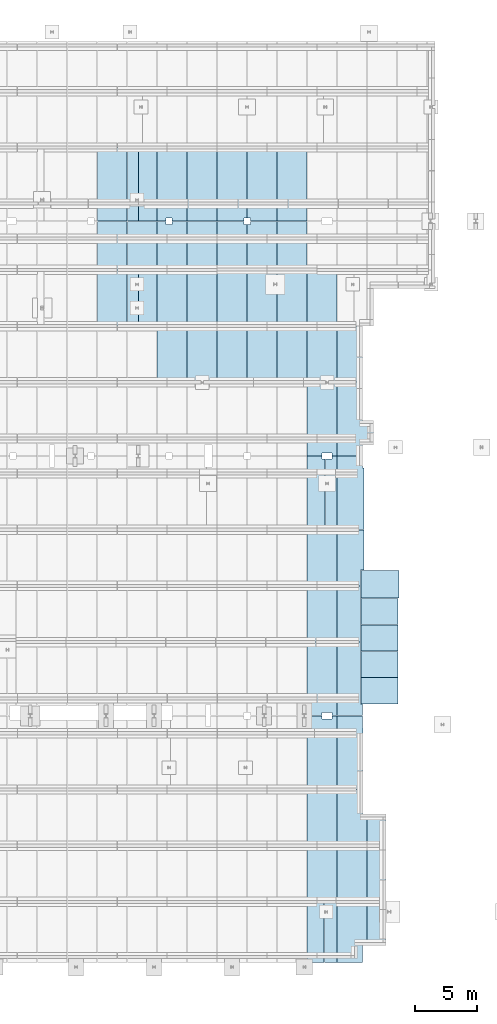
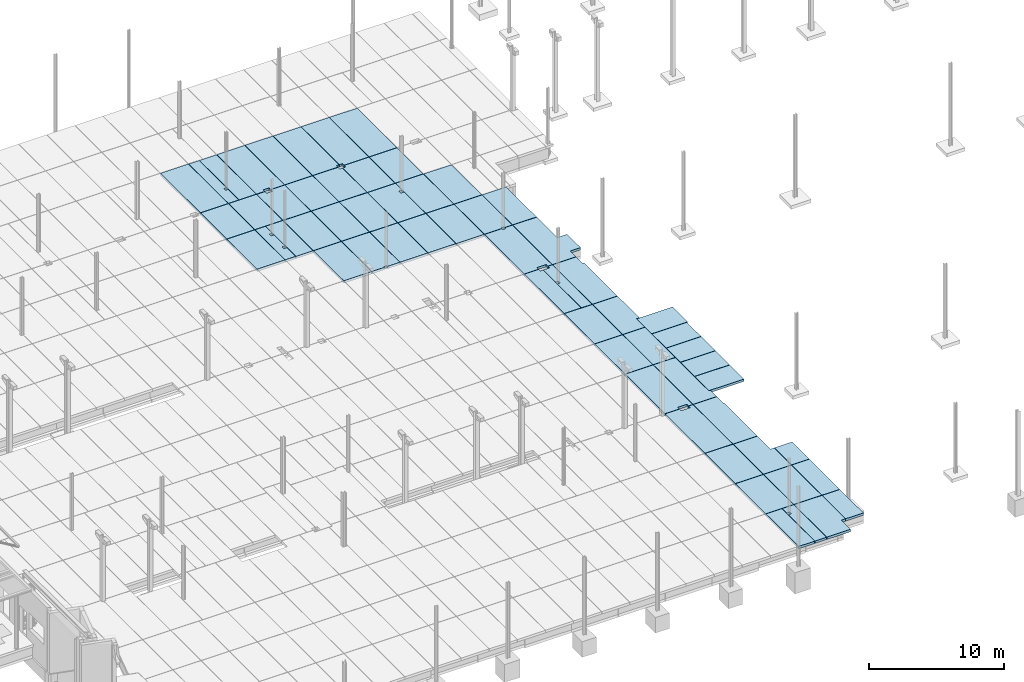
# One storey, part 51 of 59: 59 slabs.
"""IFC2X3 building model written with IfcOpenShell, lengths in metres."""

from ifc_helpers import new_model, entity, si_unit, converted_unit, derived_unit, frame, frame_2d, origin, origin_with_axes, place, context, subcontext, project, spatial, polyline, rectangle, outline, extrude, material, element, save


model = new_model("IFC2X3")

# Units and contexts
model_context = context("Model", 3, precision=1e-05, world=origin())
body_context = subcontext(model_context, "Body", "Model", "MODEL_VIEW")
ifc_project = project(units=[si_unit("LENGTHUNIT", "METRE"), si_unit("AREAUNIT", "SQUARE_METRE"), si_unit("VOLUMEUNIT", "CUBIC_METRE"), si_unit("MASSUNIT", "GRAM", prefix="KILO"), converted_unit("PLANEANGLEUNIT", "DEGREE", entity("IfcPlaneAngleMeasure", 0.0174532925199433), si_unit("PLANEANGLEUNIT", "RADIAN"), dimensions=[0, 0, 0, 0, 0, 0, 0]), derived_unit("THERMALTRANSMITTANCEUNIT", [(si_unit("POWERUNIT", "WATT"), 1), (si_unit("THERMODYNAMICTEMPERATUREUNIT", "KELVIN"), -1), (si_unit("LENGTHUNIT", "METRE"), -2)]), derived_unit("VOLUMETRICFLOWRATEUNIT", [(si_unit("LENGTHUNIT", "METRE"), 3), (converted_unit("TIMEUNIT", "hour", entity("IfcTimeMeasure", 3600.0), si_unit("TIMEUNIT", "SECOND"), dimensions=[0, 0, 1, 0, 0, 0, 0]), -1), (si_unit("LENGTHUNIT", "METRE"), -1)])], contexts=[model_context])

# Site, building, storey
site_placement = place(None, origin())
site = spatial("IfcSite", under=ifc_project, at=site_placement, Name="TWP_Speiseverteilzentrum SBW VZ II", CompositionType="ELEMENT")
building_placement = place(site_placement, origin())
building = spatial("IfcBuilding", under=site, at=building_placement, Name="Speiseverteilzentrum SBW VZ II", CompositionType="ELEMENT")
storey_placement = place(building_placement, frame((0.0, 0.0, 1.7307)))
storey = spatial("IfcBuildingStorey", under=building, at=storey_placement, Name="EG_Produktion_FFB", CompositionType="ELEMENT", Elevation=1.7307)

# Slabs
ifc_material_1 = material(Name="Stahlbetonfertigteil")
slab_1_placement = place(storey_placement, frame((50.3999999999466, 62.0100000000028, -0.47)))
element("IfcSlab", 1, at=slab_1_placement, inside=storey, material=ifc_material_1, Name="Stahlbetonfertigteilplatte", PredefinedType="BASESLAB", context=body_context, shape_type="SweptSolid", body=[
    extrude(outline(polyline([(0.650000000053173, 1.56790584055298), (0.890000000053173, 1.56790584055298), (0.890000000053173, 3.20499999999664), (0.650000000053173, 3.20499999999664), (0.650000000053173, 3.45499999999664), (0.890000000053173, 3.45499999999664), (0.890000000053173, 4.47999999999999), (0.0, 4.47999999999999), (0.0, 0.0), (0.890000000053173, 0.0), (0.890000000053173, 1.31790584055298), (0.650000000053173, 1.31790584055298), (0.650000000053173, 1.56790584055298)])), origin_with_axes(), (0.0, 0.0, 1.0), 0.22),
])
ifc_material_2 = material(Name="Stahlbetonfertigteil")
slab_2_placement = place(storey_placement, frame((51.3099999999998, 62.0100000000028, -0.47)))
element("IfcSlab", 2, at=slab_2_placement, inside=storey, material=ifc_material_2, Name="Stahlbetonfertigteilplatte", PredefinedType="BASESLAB", context=body_context, shape_type="SweptSolid", body=[
    extrude(rectangle(XDim=4.47999999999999, YDim=1.46999999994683, at=frame_2d((0.734999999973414, -2.23999999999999), x_axis=(0.0, -1.0))), frame((0.0, 4.47999999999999, 0.0), z_axis=(0.0, 0.0, 1.0), x_axis=(1.0, 0.0, 0.0)), (0.0, 0.0, 1.0), 0.22),
])
ifc_material_3 = material(Name="Stahlbetonfertigteil")
slab_3_placement = place(storey_placement, frame((64.7999999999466, 57.5100000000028, -0.47)))
element("IfcSlab", 3, at=slab_3_placement, inside=storey, material=ifc_material_3, Name="Stahlbetonfertigteilplatte", PredefinedType="BASESLAB", context=body_context, shape_type="SweptSolid", body=[
    extrude(outline(polyline([(0.0, 0.0), (1.47000000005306, 0.0), (1.47000000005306, 0.0999999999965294), (1.73000000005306, 0.0999999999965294), (1.73000000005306, 0.0), (2.38000000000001, 0.0), (2.38000000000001, 4.47999999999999), (0.0, 4.47999999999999), (0.0, 0.0)])), origin_with_axes(), (0.0, 0.0, 1.0), 0.22),
])
ifc_material_4 = material(Name="Stahlbetonfertigteil")
slab_4_placement = place(storey_placement, frame((67.1999999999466, 57.5100000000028, -0.47)))
element("IfcSlab", 4, at=slab_4_placement, inside=storey, material=ifc_material_4, Name="Stahlbetonfertigteilplatte", PredefinedType="BASESLAB", context=body_context, shape_type="SweptSolid", body=[
    extrude(rectangle(XDim=4.47999999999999, YDim=2.05000000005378, at=frame_2d((1.02500000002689, -2.23999999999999), x_axis=(0.0, -1.0))), frame((0.0, 4.47999999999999, 0.0), z_axis=(0.0, 0.0, 1.0), x_axis=(1.0, 0.0, 0.0)), (0.0, 0.0, 1.0), 0.22),
])
ifc_material_5 = material(Name="Stahlbetonfertigteil")
slab_5_placement = place(storey_placement, frame((47.9999999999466, 62.0100000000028, -0.47)))
element("IfcSlab", 5, at=slab_5_placement, inside=storey, material=ifc_material_5, Name="Stahlbetonfertigteilplatte", PredefinedType="BASESLAB", context=body_context, shape_type="SweptSolid", body=[
    extrude(rectangle(XDim=4.47999999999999, YDim=2.38, at=frame_2d((1.19, -2.23999999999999), x_axis=(0.0, -1.0))), frame((0.0, 4.47999999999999, 0.0), z_axis=(0.0, 0.0, 1.0), x_axis=(1.0, 0.0, 0.0)), (0.0, 0.0, 1.0), 0.22),
])
ifc_material_6 = material(Name="Stahlbetonfertigteil")
slab_6_placement = place(storey_placement, frame((52.7999999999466, 62.0100000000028, -0.47)))
element("IfcSlab", 6, at=slab_6_placement, inside=storey, material=ifc_material_6, Name="Stahlbetonfertigteilplatte", PredefinedType="BASESLAB", context=body_context, shape_type="SweptSolid", body=[
    extrude(rectangle(XDim=4.47999999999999, YDim=2.38, at=frame_2d((1.19, -2.23999999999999), x_axis=(0.0, -1.0))), frame((0.0, 4.47999999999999, 0.0), z_axis=(0.0, 0.0, 1.0), x_axis=(1.0, 0.0, 0.0)), (0.0, 0.0, 1.0), 0.22),
])
ifc_material_7 = material(Name="Stahlbetonfertigteil")
slab_7_placement = place(storey_placement, frame((52.7999999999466, 57.5100000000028, -0.47)))
element("IfcSlab", 7, at=slab_7_placement, inside=storey, material=ifc_material_7, Name="Stahlbetonfertigteilplatte", PredefinedType="BASESLAB", context=body_context, shape_type="SweptSolid", body=[
    extrude(rectangle(XDim=4.47999999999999, YDim=2.38, at=frame_2d((1.19, -2.23999999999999), x_axis=(0.0, -1.0))), frame((0.0, 4.47999999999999, 0.0), z_axis=(0.0, 0.0, 1.0), x_axis=(1.0, 0.0, 0.0)), (0.0, 0.0, 1.0), 0.22),
])
ifc_material_8 = material(Name="Stahlbetonfertigteil")
slab_8_placement = place(storey_placement, frame((55.1999999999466, 62.0100000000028, -0.47)))
element("IfcSlab", 8, at=slab_8_placement, inside=storey, material=ifc_material_8, Name="Stahlbetonfertigteilplatte", PredefinedType="BASESLAB", context=body_context, shape_type="SweptSolid", body=[
    extrude(rectangle(XDim=4.47999999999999, YDim=2.38, at=frame_2d((1.19, -2.23999999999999), x_axis=(0.0, -1.0))), frame((0.0, 4.47999999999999, 0.0), z_axis=(0.0, 0.0, 1.0), x_axis=(1.0, 0.0, 0.0)), (0.0, 0.0, 1.0), 0.22),
])
ifc_material_9 = material(Name="Stahlbetonfertigteil")
slab_9_placement = place(storey_placement, frame((57.5999999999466, 62.0100000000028, -0.47)))
element("IfcSlab", 9, at=slab_9_placement, inside=storey, material=ifc_material_9, Name="Stahlbetonfertigteilplatte", PredefinedType="BASESLAB", context=body_context, shape_type="SweptSolid", body=[
    extrude(rectangle(XDim=4.47999999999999, YDim=2.38, at=frame_2d((1.19, -2.23999999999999), x_axis=(0.0, -1.0))), frame((0.0, 4.47999999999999, 0.0), z_axis=(0.0, 0.0, 1.0), x_axis=(1.0, 0.0, 0.0)), (0.0, 0.0, 1.0), 0.22),
])
ifc_material_10 = material(Name="Stahlbetonfertigteil")
slab_10_placement = place(storey_placement, frame((57.5999999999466, 57.5100000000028, -0.47)))
element("IfcSlab", 10, at=slab_10_placement, inside=storey, material=ifc_material_10, Name="Stahlbetonfertigteilplatte", PredefinedType="BASESLAB", context=body_context, shape_type="SweptSolid", body=[
    extrude(rectangle(XDim=4.47999999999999, YDim=2.38, at=frame_2d((1.19, -2.23999999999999), x_axis=(0.0, -1.0))), frame((0.0, 4.47999999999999, 0.0), z_axis=(0.0, 0.0, 1.0), x_axis=(1.0, 0.0, 0.0)), (0.0, 0.0, 1.0), 0.22),
])
ifc_material_11 = material(Name="Stahlbetonfertigteil")
slab_11_placement = place(storey_placement, frame((62.3999999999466, 62.0100000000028, -0.47)))
element("IfcSlab", 11, at=slab_11_placement, inside=storey, material=ifc_material_11, Name="Stahlbetonfertigteilplatte", PredefinedType="BASESLAB", context=body_context, shape_type="SweptSolid", body=[
    extrude(rectangle(XDim=4.47999999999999, YDim=2.38, at=frame_2d((1.19, -2.23999999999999), x_axis=(0.0, -1.0))), frame((0.0, 4.47999999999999, 0.0), z_axis=(0.0, 0.0, 1.0), x_axis=(1.0, 0.0, 0.0)), (0.0, 0.0, 1.0), 0.22),
])
ifc_material_12 = material(Name="Stahlbetonfertigteil")
slab_12_placement = place(storey_placement, frame((59.9999999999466, 57.5100000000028, -0.47)))
element("IfcSlab", 12, at=slab_12_placement, inside=storey, material=ifc_material_12, Name="Stahlbetonfertigteilplatte", PredefinedType="BASESLAB", context=body_context, shape_type="SweptSolid", body=[
    extrude(rectangle(XDim=4.47999999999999, YDim=2.38, at=frame_2d((1.19, -2.23999999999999), x_axis=(0.0, -1.0))), frame((0.0, 4.47999999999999, 0.0), z_axis=(0.0, 0.0, 1.0), x_axis=(1.0, 0.0, 0.0)), (0.0, 0.0, 1.0), 0.22),
])
ifc_material_13 = material(Name="Stahlbetonfertigteil")
slab_13_placement = place(storey_placement, frame((62.3999999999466, 57.5100000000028, -0.47)))
element("IfcSlab", 13, at=slab_13_placement, inside=storey, material=ifc_material_13, Name="Stahlbetonfertigteilplatte", PredefinedType="BASESLAB", context=body_context, shape_type="SweptSolid", body=[
    extrude(rectangle(XDim=4.47999999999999, YDim=2.38, at=frame_2d((1.19, -2.23999999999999), x_axis=(0.0, -1.0))), frame((0.0, 4.47999999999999, 0.0), z_axis=(0.0, 0.0, 1.0), x_axis=(1.0, 0.0, 0.0)), (0.0, 0.0, 1.0), 0.22),
])
ifc_material_14 = material(Name="Stahlbetonfertigteil")
slab_14_placement = place(storey_placement, frame((64.7999999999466, 62.0100000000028, -0.47)))
element("IfcSlab", 14, at=slab_14_placement, inside=storey, material=ifc_material_14, Name="Stahlbetonfertigteilplatte", PredefinedType="BASESLAB", context=body_context, shape_type="SweptSolid", body=[
    extrude(rectangle(XDim=4.47999999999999, YDim=2.38000000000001, at=frame_2d((1.19000000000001, -2.23999999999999), x_axis=(0.0, -1.0))), frame((0.0, 4.47999999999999, 0.0), z_axis=(0.0, 0.0, 1.0), x_axis=(1.0, 0.0, 0.0)), (0.0, 0.0, 1.0), 0.22),
])
ifc_material_15 = material(Name="Stahlbetonfertigteil")
slab_15_placement = place(storey_placement, frame((55.1999999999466, 57.5100000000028, -0.47)))
element("IfcSlab", 15, at=slab_15_placement, inside=storey, material=ifc_material_15, Name="Stahlbetonfertigteilplatte", PredefinedType="BASESLAB", context=body_context, shape_type="SweptSolid", body=[
    extrude(outline(polyline([(0.0, 0.0), (1.07445952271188, 0.0), (1.07445952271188, 0.0999999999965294), (1.33445952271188, 0.0999999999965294), (1.33445952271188, 0.0), (2.38, 0.0), (2.38, 4.47999999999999), (0.0, 4.47999999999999), (0.0, 0.0)])), origin_with_axes(), (0.0, 0.0, 1.0), 0.22),
])
ifc_material_16 = material(Name="Stahlbetonfertigteil")
slab_16_placement = place(storey_placement, frame((59.9999999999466, 62.0100000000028, -0.47)))
element("IfcSlab", 16, at=slab_16_placement, inside=storey, material=ifc_material_16, Name="Stahlbetonfertigteilplatte", PredefinedType="BASESLAB", context=body_context, shape_type="SweptSolid", body=[
    extrude(outline(polyline([(2.1045010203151, 3.47499999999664), (2.38, 3.47499999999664), (2.38, 4.47999999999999), (0.0, 4.47999999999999), (0.0, 0.0), (2.38, 0.0), (2.38, 3.18499999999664), (2.1045010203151, 3.18499999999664), (2.1045010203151, 3.47499999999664)])), origin_with_axes(), (0.0, 0.0, 1.0), 0.22),
])
ifc_material_17 = material(Name="Stahlbetonfertigteil")
slab_17_placement = place(storey_placement, frame((69.5999999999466, 20.4100000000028, -0.47)))
element("IfcSlab", 17, at=slab_17_placement, inside=storey, material=ifc_material_17, Name="Stahlbetonfertigteilplatte", PredefinedType="BASESLAB", context=body_context, shape_type="SweptSolid", body=[
    extrude(rectangle(XDim=1.51000000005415, YDim=2.54499999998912, at=frame_2d((-0.755000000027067, -1.27249999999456), x_axis=(-1.0, 0.0))), frame((1.51000000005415, 2.54499999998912, 0.0), z_axis=(0.0, 0.0, 1.0), x_axis=(1.0, 0.0, 0.0)), (0.0, 0.0, 1.0), 0.22),
])
ifc_material_18 = material(Name="Stahlbetonfertigteil")
slab_18_placement = place(storey_placement, frame((69.5999999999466, 15.9100000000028, -0.47)))
element("IfcSlab", 18, at=slab_18_placement, inside=storey, material=ifc_material_18, Name="Stahlbetonfertigteilplatte", PredefinedType="BASESLAB", context=body_context, shape_type="SweptSolid", body=[
    extrude(rectangle(XDim=1.51000000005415, YDim=4.47999999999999, at=frame_2d((-0.755000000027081, -2.23999999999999), x_axis=(-1.0, 0.0))), frame((1.51000000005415, 4.47999999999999, 0.0), z_axis=(0.0, 0.0, 1.0), x_axis=(1.0, 0.0, 0.0)), (0.0, 0.0, 1.0), 0.22),
])
ifc_material_19 = material(Name="Stahlbetonfertigteil")
slab_19_placement = place(storey_placement, frame((67.1999999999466, 20.4100000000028, -0.47)))
element("IfcSlab", 19, at=slab_19_placement, inside=storey, material=ifc_material_19, Name="Stahlbetonfertigteilplatte", PredefinedType="BASESLAB", context=body_context, shape_type="SweptSolid", body=[
    extrude(outline(polyline([(0.0, 4.47999999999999), (0.0, 0.0), (2.38, 0.0), (2.38, 2.54499999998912), (2.07500000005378, 2.54499999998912), (2.07500000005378, 4.47999999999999), (0.0, 4.47999999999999)])), origin_with_axes(), (0.0, 0.0, 1.0), 0.22),
])
ifc_material_20 = material(Name="Stahlbetonfertigteil")
slab_20_placement = place(storey_placement, frame((67.1999999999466, 15.9100000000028, -0.47)))
element("IfcSlab", 20, at=slab_20_placement, inside=storey, material=ifc_material_20, Name="Stahlbetonfertigteilplatte", PredefinedType="BASESLAB", context=body_context, shape_type="SweptSolid", body=[
    extrude(rectangle(XDim=2.38, YDim=4.47999999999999, at=frame_2d((-1.19, -2.23999999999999), x_axis=(-1.0, 0.0))), frame((2.38, 4.47999999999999, 0.0), z_axis=(0.0, 0.0, 1.0), x_axis=(1.0, 0.0, 0.0)), (0.0, 0.0, 1.0), 0.22),
])
ifc_material_21 = material(Name="Stahlbetonfertigteil")
slab_21_placement = place(storey_placement, frame((64.7999999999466, 15.9100000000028, -0.47)))
element("IfcSlab", 21, at=slab_21_placement, inside=storey, material=ifc_material_21, Name="Stahlbetonfertigteilplatte", PredefinedType="BASESLAB", context=body_context, shape_type="SweptSolid", body=[
    extrude(rectangle(XDim=4.47999999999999, YDim=2.38000000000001, at=frame_2d((1.19000000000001, -2.23999999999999), x_axis=(0.0, -1.0))), frame((0.0, 4.47999999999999, 0.0), z_axis=(0.0, 0.0, 1.0), x_axis=(1.0, 0.0, 0.0)), (0.0, 0.0, 1.0), 0.22),
])
ifc_material_22 = material(Name="Stahlbetonfertigteil")
slab_22_placement = place(storey_placement, frame((64.7999999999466, 20.4100000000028, -0.47)))
element("IfcSlab", 22, at=slab_22_placement, inside=storey, material=ifc_material_22, Name="Stahlbetonfertigteilplatte", PredefinedType="BASESLAB", context=body_context, shape_type="SweptSolid", body=[
    extrude(rectangle(XDim=4.47999999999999, YDim=2.38000000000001, at=frame_2d((1.19000000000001, -2.23999999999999), x_axis=(0.0, -1.0))), frame((0.0, 4.47999999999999, 0.0), z_axis=(0.0, 0.0, 1.0), x_axis=(1.0, 0.0, 0.0)), (0.0, 0.0, 1.0), 0.22),
])
ifc_material_23 = material(Name="Stahlbetonfertigteil")
slab_23_placement = place(storey_placement, frame((64.7999999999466, 41.2100000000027, -0.47)))
element("IfcSlab", 23, at=slab_23_placement, inside=storey, material=ifc_material_23, Name="Stahlbetonfertigteilplatte", PredefinedType="BASESLAB", context=body_context, shape_type="SweptSolid", body=[
    extrude(rectangle(XDim=4.47999999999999, YDim=2.38000000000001, at=frame_2d((1.19000000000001, -2.23999999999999), x_axis=(0.0, -1.0))), frame((0.0, 4.47999999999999, 0.0), z_axis=(0.0, 0.0, 1.0), x_axis=(1.0, 0.0, 0.0)), (0.0, 0.0, 1.0), 0.22),
])
ifc_material_24 = material(Name="Stahlbetonfertigteil")
slab_24_placement = place(storey_placement, frame((64.7999999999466, 36.7100000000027, -0.47)))
element("IfcSlab", 24, at=slab_24_placement, inside=storey, material=ifc_material_24, Name="Stahlbetonfertigteilplatte", PredefinedType="BASESLAB", context=body_context, shape_type="SweptSolid", body=[
    extrude(rectangle(XDim=4.47999999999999, YDim=2.38000000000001, at=frame_2d((1.19000000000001, -2.23999999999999), x_axis=(0.0, -1.0))), frame((0.0, 4.47999999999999, 0.0), z_axis=(0.0, 0.0, 1.0), x_axis=(1.0, 0.0, 0.0)), (0.0, 0.0, 1.0), 0.22),
])
ifc_material_25 = material(Name="Stahlbetonfertigteil")
slab_25_placement = place(storey_placement, frame((51.3099999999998, 70.4104127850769, -0.47)))
element("IfcSlab", 25, at=slab_25_placement, inside=storey, material=ifc_material_25, Name="Stahlbetonfertigteilplatte", PredefinedType="BASESLAB", context=body_context, shape_type="SweptSolid", body=[
    extrude(rectangle(XDim=5.87958721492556, YDim=1.46999999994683, at=frame_2d((0.734999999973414, -2.93979360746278), x_axis=(0.0, -1.0))), frame((0.0, 5.87958721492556, 0.0), z_axis=(0.0, 0.0, 1.0), x_axis=(1.0, 0.0, 0.0)), (0.0, 0.0, 1.0), 0.22),
])
ifc_material_26 = material(Name="Stahlbetonfertigteil")
slab_26_placement = place(storey_placement, frame((57.5999999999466, 66.5102063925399, -0.47)))
element("IfcSlab", 26, at=slab_26_placement, inside=storey, material=ifc_material_26, Name="Stahlbetonfertigteilplatte", PredefinedType="BASESLAB", context=body_context, shape_type="SweptSolid", body=[
    extrude(outline(polyline([(0.0, 0.0), (2.38, 0.0), (2.38, 3.63979360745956), (2.1500000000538, 3.63979360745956), (2.1500000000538, 3.8799999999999), (0.0, 3.8799999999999), (0.0, 0.0)])), origin_with_axes(), (0.0, 0.0, 1.0), 0.22),
])
ifc_material_27 = material(Name="Stahlbetonfertigteil")
slab_27_placement = place(storey_placement, frame((59.9999999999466, 66.5102063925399, -0.47)))
element("IfcSlab", 27, at=slab_27_placement, inside=storey, material=ifc_material_27, Name="Stahlbetonfertigteilplatte", PredefinedType="BASESLAB", context=body_context, shape_type="SweptSolid", body=[
    extrude(outline(polyline([(0.250000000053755, 3.63979360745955), (0.0, 3.63979360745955), (0.0, 0.0), (2.38, 0.0), (2.38, 3.8799999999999), (0.250000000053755, 3.8799999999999), (0.250000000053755, 3.63979360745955)])), origin_with_axes(), (0.0, 0.0, 1.0), 0.22),
])
ifc_material_28 = material(Name="Stahlbetonfertigteil")
slab_28_placement = place(storey_placement, frame((57.5999999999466, 70.4104127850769, -0.47)))
element("IfcSlab", 28, at=slab_28_placement, inside=storey, material=ifc_material_28, Name="Stahlbetonfertigteilplatte", PredefinedType="BASESLAB", context=body_context, shape_type="SweptSolid", body=[
    extrude(outline(polyline([(2.38, 0.239587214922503), (2.38, 5.87958721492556), (0.0, 5.87958721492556), (0.0, 0.0), (2.1500000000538, 0.0), (2.1500000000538, 0.239587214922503), (2.38, 0.239587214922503)])), origin_with_axes(), (0.0, 0.0, 1.0), 0.22),
])
ifc_material_29 = material(Name="Stahlbetonfertigteil")
slab_29_placement = place(storey_placement, frame((59.9999999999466, 70.4104127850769, -0.47)))
element("IfcSlab", 29, at=slab_29_placement, inside=storey, material=ifc_material_29, Name="Stahlbetonfertigteilplatte", PredefinedType="BASESLAB", context=body_context, shape_type="SweptSolid", body=[
    extrude(outline(polyline([(2.38, 0.0), (2.38, 5.87958721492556), (0.0, 5.87958721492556), (0.0, 0.239587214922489), (0.250000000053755, 0.239587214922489), (0.250000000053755, 0.0), (2.38, 0.0)])), origin_with_axes(), (0.0, 0.0, 1.0), 0.22),
])
ifc_material_30 = material(Name="Stahlbetonfertigteil")
slab_30_placement = place(storey_placement, frame((52.7999999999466, 70.4104127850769, -0.47)))
element("IfcSlab", 30, at=slab_30_placement, inside=storey, material=ifc_material_30, Name="Stahlbetonfertigteilplatte", PredefinedType="BASESLAB", context=body_context, shape_type="SweptSolid", body=[
    extrude(outline(polyline([(1.20000000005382, 0.239587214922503), (1.20000000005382, 0.0), (2.38, 0.0), (2.38, 5.87958721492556), (0.0, 5.87958721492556), (0.0, 0.0), (0.700000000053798, 0.0), (0.700000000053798, 0.239587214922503), (1.20000000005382, 0.239587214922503)])), origin_with_axes(), (0.0, 0.0, 1.0), 0.22),
])
ifc_material_31 = material(Name="Stahlbetonfertigteil")
slab_31_placement = place(storey_placement, frame((52.7999999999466, 66.5102063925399, -0.47)))
element("IfcSlab", 31, at=slab_31_placement, inside=storey, material=ifc_material_31, Name="Stahlbetonfertigteilplatte", PredefinedType="BASESLAB", context=body_context, shape_type="SweptSolid", body=[
    extrude(outline(polyline([(0.700000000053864, 3.63979360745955), (0.700000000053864, 3.8799999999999), (0.0, 3.8799999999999), (0.0, 0.0), (2.38, 0.0), (2.38, 3.8799999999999), (1.20000000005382, 3.8799999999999), (1.20000000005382, 3.63979360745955), (0.700000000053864, 3.63979360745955)])), origin_with_axes(), (0.0, 0.0, 1.0), 0.22),
])
ifc_material_32 = material(Name="Stahlbetonfertigteil")
slab_32_placement = place(storey_placement, frame((67.1999999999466, 51.6100000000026, -0.47)))
element("IfcSlab", 32, at=slab_32_placement, inside=storey, material=ifc_material_32, Name="Stahlbetonfertigteilplatte", PredefinedType="BASESLAB", context=body_context, shape_type="SweptSolid", body=[
    extrude(outline(polyline([(0.0, 0.0), (2.02500000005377, 0.0), (2.02500000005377, 0.865000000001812), (2.90000000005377, 0.865000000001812), (2.90000000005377, 2.84999999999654), (2.05000000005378, 2.84999999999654), (2.05000000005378, 5.87999999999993), (0.0, 5.87999999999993), (0.0, 0.0)])), origin_with_axes(), (0.0, 0.0, 1.0), 0.22),
])
ifc_material_33 = material(Name="Stahlbetonfertigteil")
slab_33_placement = place(storey_placement, frame((47.9999999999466, 70.4104127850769, -0.47)))
element("IfcSlab", 33, at=slab_33_placement, inside=storey, material=ifc_material_33, Name="Stahlbetonfertigteilplatte", PredefinedType="BASESLAB", context=body_context, shape_type="SweptSolid", body=[
    extrude(rectangle(XDim=5.87958721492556, YDim=2.38, at=frame_2d((1.19, -2.93979360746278), x_axis=(0.0, -1.0))), frame((0.0, 5.87958721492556, 0.0), z_axis=(0.0, 0.0, 1.0), x_axis=(1.0, 0.0, 0.0)), (0.0, 0.0, 1.0), 0.22),
])
ifc_material_34 = material(Name="Stahlbetonfertigteil")
slab_34_placement = place(storey_placement, frame((50.3999999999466, 66.5102063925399, -0.47)))
element("IfcSlab", 34, at=slab_34_placement, inside=storey, material=ifc_material_34, Name="Stahlbetonfertigteilplatte", PredefinedType="BASESLAB", context=body_context, shape_type="SweptSolid", body=[
    extrude(rectangle(XDim=3.8799999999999, YDim=2.38, at=frame_2d((1.19, -1.93999999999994), x_axis=(0.0, -1.0))), frame((0.0, 3.8799999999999, 0.0), z_axis=(0.0, 0.0, 1.0), x_axis=(1.0, 0.0, 0.0)), (0.0, 0.0, 1.0), 0.22),
])
ifc_material_35 = material(Name="Stahlbetonfertigteil")
slab_35_placement = place(storey_placement, frame((47.9999999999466, 66.5102063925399, -0.47)))
element("IfcSlab", 35, at=slab_35_placement, inside=storey, material=ifc_material_35, Name="Stahlbetonfertigteilplatte", PredefinedType="BASESLAB", context=body_context, shape_type="SweptSolid", body=[
    extrude(rectangle(XDim=3.8799999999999, YDim=2.38, at=frame_2d((1.19, -1.93999999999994), x_axis=(0.0, -1.0))), frame((0.0, 3.8799999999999, 0.0), z_axis=(0.0, 0.0, 1.0), x_axis=(1.0, 0.0, 0.0)), (0.0, 0.0, 1.0), 0.22),
])
ifc_material_36 = material(Name="Stahlbetonfertigteil")
slab_36_placement = place(storey_placement, frame((55.1999999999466, 70.4104127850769, -0.47)))
element("IfcSlab", 36, at=slab_36_placement, inside=storey, material=ifc_material_36, Name="Stahlbetonfertigteilplatte", PredefinedType="BASESLAB", context=body_context, shape_type="SweptSolid", body=[
    extrude(rectangle(XDim=5.87958721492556, YDim=2.38, at=frame_2d((1.19, -2.93979360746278), x_axis=(0.0, -1.0))), frame((0.0, 5.87958721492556, 0.0), z_axis=(0.0, 0.0, 1.0), x_axis=(1.0, 0.0, 0.0)), (0.0, 0.0, 1.0), 0.22),
])
ifc_material_37 = material(Name="Stahlbetonfertigteil")
slab_37_placement = place(storey_placement, frame((55.1999999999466, 66.5102063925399, -0.47)))
element("IfcSlab", 37, at=slab_37_placement, inside=storey, material=ifc_material_37, Name="Stahlbetonfertigteilplatte", PredefinedType="BASESLAB", context=body_context, shape_type="SweptSolid", body=[
    extrude(rectangle(XDim=3.8799999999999, YDim=2.38, at=frame_2d((1.19, -1.93999999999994), x_axis=(0.0, -1.0))), frame((0.0, 3.8799999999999, 0.0), z_axis=(0.0, 0.0, 1.0), x_axis=(1.0, 0.0, 0.0)), (0.0, 0.0, 1.0), 0.22),
])
ifc_material_38 = material(Name="Stahlbetonfertigteil")
slab_38_placement = place(storey_placement, frame((62.3999999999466, 70.4104127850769, -0.47)))
element("IfcSlab", 38, at=slab_38_placement, inside=storey, material=ifc_material_38, Name="Stahlbetonfertigteilplatte", PredefinedType="BASESLAB", context=body_context, shape_type="SweptSolid", body=[
    extrude(rectangle(XDim=5.87958721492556, YDim=2.38, at=frame_2d((1.19, -2.93979360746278), x_axis=(0.0, -1.0))), frame((0.0, 5.87958721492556, 0.0), z_axis=(0.0, 0.0, 1.0), x_axis=(1.0, 0.0, 0.0)), (0.0, 0.0, 1.0), 0.22),
])
ifc_material_39 = material(Name="Stahlbetonfertigteil")
slab_39_placement = place(storey_placement, frame((62.3999999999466, 66.5102063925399, -0.47)))
element("IfcSlab", 39, at=slab_39_placement, inside=storey, material=ifc_material_39, Name="Stahlbetonfertigteilplatte", PredefinedType="BASESLAB", context=body_context, shape_type="SweptSolid", body=[
    extrude(rectangle(XDim=3.8799999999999, YDim=2.38, at=frame_2d((1.19, -1.93999999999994), x_axis=(0.0, -1.0))), frame((0.0, 3.8799999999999, 0.0), z_axis=(0.0, 0.0, 1.0), x_axis=(1.0, 0.0, 0.0)), (0.0, 0.0, 1.0), 0.22),
])
ifc_material_40 = material(Name="Stahlbetonfertigteil")
slab_40_placement = place(storey_placement, frame((64.7999999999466, 51.6100000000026, -0.47)))
element("IfcSlab", 40, at=slab_40_placement, inside=storey, material=ifc_material_40, Name="Stahlbetonfertigteilplatte", PredefinedType="BASESLAB", context=body_context, shape_type="SweptSolid", body=[
    extrude(outline(polyline([(1.47000000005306, 5.7499999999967), (1.47000000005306, 5.87999999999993), (0.0, 5.87999999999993), (0.0, 0.0), (1.20000000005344, 0.0), (1.20000000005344, 0.239999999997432), (2.00600000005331, 0.239999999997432), (2.00600000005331, 0.0), (2.38000000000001, 0.0), (2.38000000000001, 5.87999999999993), (1.73000000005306, 5.87999999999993), (1.73000000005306, 5.7499999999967), (1.47000000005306, 5.7499999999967)])), origin_with_axes(), (0.0, 0.0, 1.0), 0.22),
])
ifc_material_41 = material(Name="Stahlbetonfertigteil")
slab_41_placement = place(storey_placement, frame((50.3999999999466, 70.4104127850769, -0.47)))
element("IfcSlab", 41, at=slab_41_placement, inside=storey, material=ifc_material_41, Name="Stahlbetonfertigteilplatte", PredefinedType="BASESLAB", context=body_context, shape_type="SweptSolid", body=[
    extrude(outline(polyline([(0.650000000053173, 1.82408872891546), (0.890000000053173, 1.82408872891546), (0.890000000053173, 5.87958721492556), (0.0, 5.87958721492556), (0.0, 0.0), (0.890000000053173, 0.0), (0.890000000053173, 1.57408872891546), (0.650000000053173, 1.57408872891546), (0.650000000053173, 1.82408872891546)])), origin_with_axes(), (0.0, 0.0, 1.0), 0.22),
])
ifc_material_42 = material(Name="Stahlbetonfertigteil")
slab_42_placement = place(storey_placement, frame((64.7999999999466, 11.0500000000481, -0.47)))
element("IfcSlab", 42, at=slab_42_placement, inside=storey, material=ifc_material_42, Name="Stahlbetonfertigteilplatte", PredefinedType="BASESLAB", context=body_context, shape_type="SweptSolid", body=[
    extrude(rectangle(XDim=4.83999999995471, YDim=1.37000000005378, at=frame_2d((0.685000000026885, -2.41999999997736), x_axis=(0.0, -1.0))), frame((0.0, 4.83999999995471, 0.0), z_axis=(0.0, 0.0, 1.0), x_axis=(1.0, 0.0, 0.0)), (0.0, 0.0, 1.0), 0.22),
])
ifc_material_43 = material(Name="Stahlbetonfertigteil")
slab_43_placement = place(storey_placement, frame((67.1999999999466, 24.9100000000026, -0.47)))
element("IfcSlab", 43, at=slab_43_placement, inside=storey, material=ifc_material_43, Name="Stahlbetonfertigteilplatte", PredefinedType="BASESLAB", context=body_context, shape_type="SweptSolid", body=[
    extrude(outline(polyline([(2.07500000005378, 0.0), (2.07500000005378, 4.91999999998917), (2.01500000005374, 4.91999999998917), (2.01500000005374, 5.87999999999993), (0.0, 5.87999999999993), (0.0, 0.0), (2.07500000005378, 0.0)])), origin_with_axes(), (0.0, 0.0, 1.0), 0.22),
])
ifc_material_44 = material(Name="Stahlbetonfertigteil")
slab_44_placement = place(storey_placement, frame((67.1999999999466, 11.0500000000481, -0.47)))
element("IfcSlab", 44, at=slab_44_placement, inside=storey, material=ifc_material_44, Name="Stahlbetonfertigteilplatte", PredefinedType="BASESLAB", context=body_context, shape_type="SweptSolid", body=[
    extrude(outline(polyline([(0.0, 4.83999999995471), (0.0, 0.0), (2.02500000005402, 0.0), (2.02500000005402, 1.34999999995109), (2.38, 1.34999999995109), (2.38, 4.83999999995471), (0.0, 4.83999999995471)])), origin_with_axes(), (0.0, 0.0, 1.0), 0.22),
])
ifc_material_45 = material(Name="Stahlbetonfertigteil")
slab_45_placement = place(storey_placement, frame((69.5999999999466, 12.3999999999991, -0.47)))
element("IfcSlab", 45, at=slab_45_placement, inside=storey, material=ifc_material_45, Name="Stahlbetonfertigteilplatte", PredefinedType="BASESLAB", context=body_context, shape_type="SweptSolid", body=[
    extrude(rectangle(XDim=3.49000000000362, YDim=1.51000000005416, at=frame_2d((0.755000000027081, -1.74500000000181), x_axis=(0.0, -1.0))), frame((0.0, 3.49000000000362, 0.0), z_axis=(0.0, 0.0, 1.0), x_axis=(1.0, 0.0, 0.0)), (0.0, 0.0, 1.0), 0.22),
])
ifc_material_46 = material(Name="Stahlbetonfertigteil")
slab_46_placement = place(storey_placement, frame((64.7999999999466, 24.9100000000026, -0.47)))
element("IfcSlab", 46, at=slab_46_placement, inside=storey, material=ifc_material_46, Name="Stahlbetonfertigteilplatte", PredefinedType="BASESLAB", context=body_context, shape_type="SweptSolid", body=[
    extrude(outline(polyline([(1.20000000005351, 5.63999999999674), (1.20000000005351, 5.87999999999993), (0.0, 5.87999999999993), (0.0, 0.0), (2.38000000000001, 0.0), (2.38000000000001, 5.87999999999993), (2.00600000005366, 5.87999999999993), (2.00600000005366, 5.63999999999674), (1.20000000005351, 5.63999999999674)])), origin_with_axes(), (0.0, 0.0, 1.0), 0.22),
])
ifc_material_47 = material(Name="Stahlbetonfertigteil")
slab_47_placement = place(storey_placement, frame((64.7999999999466, 30.8100000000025, -0.47)))
element("IfcSlab", 47, at=slab_47_placement, inside=storey, material=ifc_material_47, Name="Stahlbetonfertigteilplatte", PredefinedType="BASESLAB", context=body_context, shape_type="SweptSolid", body=[
    extrude(outline(polyline([(2.00600000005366, 0.240103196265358), (2.00600000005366, 0.0), (2.38000000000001, 0.0), (2.38000000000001, 5.87999999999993), (0.0, 5.87999999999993), (0.0, 0.0), (1.20000000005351, 0.0), (1.20000000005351, 0.240103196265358), (2.00600000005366, 0.240103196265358)])), origin_with_axes(), (0.0, 0.0, 1.0), 0.22),
])
ifc_material_48 = material(Name="Stahlbetonfertigteil")
slab_48_placement = place(storey_placement, frame((66.1900000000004, 11.0500000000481, -0.47)))
element("IfcSlab", 48, at=slab_48_placement, inside=storey, material=ifc_material_48, Name="Stahlbetonfertigteilplatte", PredefinedType="BASESLAB", context=body_context, shape_type="SweptSolid", body=[
    extrude(outline(polyline([(0.0, 0.0), (0.989999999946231, 0.0), (0.989999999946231, 4.83999999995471), (0.0, 4.83999999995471), (0.0, 4.18009999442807), (0.249459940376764, 4.18009999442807), (0.249459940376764, 3.94009999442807), (0.0, 3.94009999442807), (0.0, 0.0)])), origin_with_axes(), (0.0, 0.0, 1.0), 0.22),
])
ifc_material_49 = material(Name="Stahlbetonfertigteil")
slab_49_placement = place(storey_placement, frame((64.7999999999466, 45.7100000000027, -0.47)))
element("IfcSlab", 49, at=slab_49_placement, inside=storey, material=ifc_material_49, Name="Stahlbetonfertigteilplatte", PredefinedType="BASESLAB", context=body_context, shape_type="SweptSolid", body=[
    extrude(outline(polyline([(1.20000000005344, 5.87999999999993), (0.0, 5.87999999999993), (0.0, 0.0), (1.45000000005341, 0.0), (1.45000000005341, 5.63999999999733), (1.20000000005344, 5.63999999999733), (1.20000000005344, 5.87999999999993)])), origin_with_axes(), (0.0, 0.0, 1.0), 0.22),
])
ifc_material_50 = material(Name="Stahlbetonfertigteil")
slab_50_placement = place(storey_placement, frame((66.27, 45.7100000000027, -0.47)))
element("IfcSlab", 50, at=slab_50_placement, inside=storey, material=ifc_material_50, Name="Stahlbetonfertigteilplatte", PredefinedType="BASESLAB", context=body_context, shape_type="SweptSolid", body=[
    extrude(outline(polyline([(0.535999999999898, 5.87999999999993), (0.535999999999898, 5.63999999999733), (0.0, 5.63999999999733), (0.0, 3.82500000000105), (0.26, 3.82500000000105), (0.26, 3.55500000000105), (0.0, 3.55500000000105), (0.0, 0.0), (0.909999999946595, 0.0), (0.909999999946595, 5.87999999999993), (0.535999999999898, 5.87999999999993)])), origin_with_axes(), (0.0, 0.0, 1.0), 0.22),
])
ifc_material_51 = material(Name="Stahlbetonfertigteil")
slab_51_placement = place(storey_placement, frame((67.1999999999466, 36.7100000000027, -0.47)))
element("IfcSlab", 51, at=slab_51_placement, inside=storey, material=ifc_material_51, Name="Stahlbetonfertigteilplatte", PredefinedType="BASESLAB", context=body_context, shape_type="SweptSolid", body=[
    extrude(rectangle(XDim=4.47999999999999, YDim=1.88000000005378, at=frame_2d((0.940000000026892, -2.23999999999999), x_axis=(0.0, -1.0))), frame((0.0, 4.47999999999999, 0.0), z_axis=(0.0, 0.0, 1.0), x_axis=(1.0, 0.0, 0.0)), (0.0, 0.0, 1.0), 0.22),
])
ifc_material_52 = material(Name="Stahlbetonfertigteil")
slab_52_placement = place(storey_placement, frame((67.1999999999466, 30.8100000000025, -0.47)))
element("IfcSlab", 52, at=slab_52_placement, inside=storey, material=ifc_material_52, Name="Stahlbetonfertigteilplatte", PredefinedType="BASESLAB", context=body_context, shape_type="SweptSolid", body=[
    extrude(outline(polyline([(2.01500000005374, 0.922252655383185), (1.88000000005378, 0.922252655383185), (1.88000000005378, 5.87999999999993), (0.0, 5.87999999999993), (0.0, 0.0), (2.01500000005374, 0.0), (2.01500000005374, 0.922252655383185)])), origin_with_axes(), (0.0, 0.0, 1.0), 0.22),
])
ifc_material_53 = material(Name="Stahlbetonfertigteil")
slab_53_placement = place(storey_placement, frame((67.1999999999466, 41.2100000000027, -0.47)))
element("IfcSlab", 53, at=slab_53_placement, inside=storey, material=ifc_material_53, Name="Stahlbetonfertigteilplatte", PredefinedType="BASESLAB", context=body_context, shape_type="SweptSolid", body=[
    extrude(outline(polyline([(2.14000000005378, 4.47999999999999), (0.0, 4.47999999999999), (0.0, 0.0), (1.88000000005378, 0.0), (1.88000000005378, 1.24999999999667), (2.14000000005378, 1.24999999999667), (2.14000000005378, 4.47999999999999)])), origin_with_axes(), (0.0, 0.0, 1.0), 0.22),
])
ifc_material_54 = material(Name="Stahlbetonfertigteil")
slab_54_placement = place(storey_placement, frame((69.1000000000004, 40.2199999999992, -0.47)))
element("IfcSlab", 54, at=slab_54_placement, inside=storey, material=ifc_material_54, Name="Stahlbetonfertigteilplatte", PredefinedType="BASESLAB", context=body_context, shape_type="SweptSolid", body=[
    extrude(outline(polyline([(3.05999999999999, 0.0), (3.05999999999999, 2.22), (0.0, 2.22), (0.0, 0.0), (2.97999999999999, 0.0), (3.05999999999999, 0.0)])), origin_with_axes(), (0.0, 0.0, 1.0), 0.22),
])
ifc_material_55 = material(Name="Stahlbetonfertigteil")
slab_55_placement = place(storey_placement, frame((69.1000000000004, 31.7522526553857, -0.47)))
element("IfcSlab", 55, at=slab_55_placement, inside=storey, material=ifc_material_55, Name="Stahlbetonfertigteilplatte", PredefinedType="BASESLAB", context=body_context, shape_type="SweptSolid", body=[
    extrude(rectangle(XDim=2.97999999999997, YDim=2.10193683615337, at=frame_2d((1.48999999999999, 1.05096841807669), x_axis=(1.0, 0.0))), origin_with_axes(), (0.0, 0.0, 1.0), 0.22),
])
ifc_material_56 = material(Name="Stahlbetonfertigteil")
slab_56_placement = place(storey_placement, frame((69.1000000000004, 33.8741894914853, -0.47)))
element("IfcSlab", 56, at=slab_56_placement, inside=storey, material=ifc_material_56, Name="Stahlbetonfertigteilplatte", PredefinedType="BASESLAB", context=body_context, shape_type="SweptSolid", body=[
    extrude(rectangle(XDim=2.97999999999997, YDim=2.09193683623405, at=frame_2d((1.48999999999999, 1.04596841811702), x_axis=(1.0, 0.0))), origin_with_axes(), (0.0, 0.0, 1.0), 0.22),
])
ifc_material_57 = material(Name="Stahlbetonfertigteil")
slab_57_placement = place(storey_placement, frame((69.1000000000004, 35.9861263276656, -0.47)))
element("IfcSlab", 57, at=slab_57_placement, inside=storey, material=ifc_material_57, Name="Stahlbetonfertigteilplatte", PredefinedType="BASESLAB", context=body_context, shape_type="SweptSolid", body=[
    extrude(rectangle(XDim=2.97999999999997, YDim=2.09193683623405, at=frame_2d((1.48999999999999, 1.04596841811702), x_axis=(1.0, 0.0))), origin_with_axes(), (0.0, 0.0, 1.0), 0.22),
])
ifc_material_58 = material(Name="Stahlbetonfertigteil")
slab_58_placement = place(storey_placement, frame((69.1000000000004, 38.0980631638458, -0.47)))
element("IfcSlab", 58, at=slab_58_placement, inside=storey, material=ifc_material_58, Name="Stahlbetonfertigteilplatte", PredefinedType="BASESLAB", context=body_context, shape_type="SweptSolid", body=[
    extrude(rectangle(XDim=2.97999999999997, YDim=2.10193683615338, at=frame_2d((1.48999999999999, 1.05096841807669), x_axis=(1.0, 0.0))), origin_with_axes(), (0.0, 0.0, 1.0), 0.22),
])
ifc_material_59 = material(Name="Stahlbetonfertigteil")
slab_59_placement = place(storey_placement, frame((67.1999999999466, 45.7100000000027, -0.47)))
element("IfcSlab", 59, at=slab_59_placement, inside=storey, material=ifc_material_59, Name="Stahlbetonfertigteilplatte", PredefinedType="BASESLAB", context=body_context, shape_type="SweptSolid", body=[
    extrude(outline(polyline([(2.02500000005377, 5.87999999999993), (0.0, 5.87999999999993), (0.0, 0.0), (2.14000000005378, 0.0), (2.14000000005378, 4.91999999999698), (2.02500000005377, 4.91999999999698), (2.02500000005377, 5.87999999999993)])), origin_with_axes(), (0.0, 0.0, 1.0), 0.22),
])

save(model, "model.ifc")
